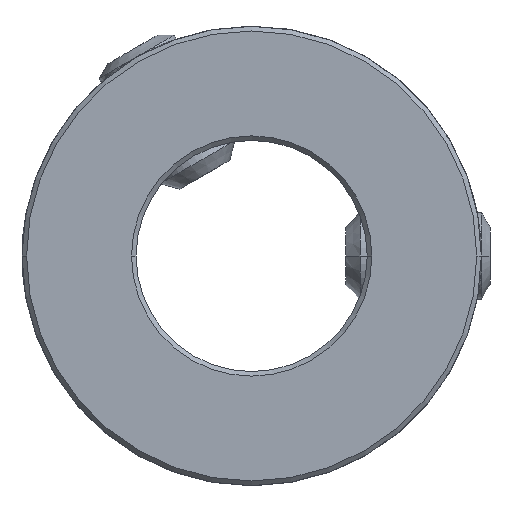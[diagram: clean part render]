
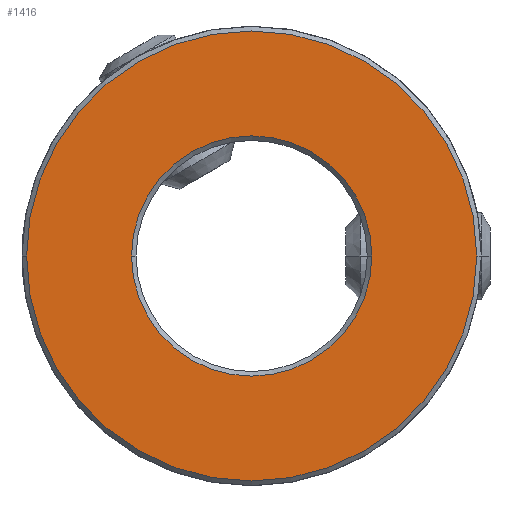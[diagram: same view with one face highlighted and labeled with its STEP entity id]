
A CAD part, front view. The second image highlights one B-rep face of the part: STEP entity #1416.
In plain terms, the highlighted planar face has unit normal (0, -1, 0).
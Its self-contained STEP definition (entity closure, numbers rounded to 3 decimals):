
#2=CARTESIAN_POINT('',(0.,-15.,0.));
#3=DIRECTION('',(0.,-1.,0.));
#4=DIRECTION('',(1.,0.,0.));
#5=AXIS2_PLACEMENT_3D('',#2,#3,#4);
#7=CARTESIAN_POINT('',(0.,-15.,
0.));
#8=DIRECTION('',(0.,-1.,0.));
#9=DIRECTION('',(-1.,0.,0.));
#10=AXIS2_PLACEMENT_3D('',#7,#8,#9);
#12=CARTESIAN_POINT('',(0.,-15.,0.));
#13=DIRECTION('',(0.,1.,0.));
#14=DIRECTION('',(1.,0.,0.));
#15=AXIS2_PLACEMENT_3D('',#12,#13,#14);
#17=CARTESIAN_POINT('',(0.,-15.,
0.));
#18=DIRECTION('',(0.,1.,0.));
#19=DIRECTION('',(-1.,0.,0.));
#20=AXIS2_PLACEMENT_3D('',#17,#18,#19);
#1284=CARTESIAN_POINT('',(8.32,-15.,0.));
#1285=CARTESIAN_POINT('',(-8.32,-15.,0.));
#1286=VERTEX_POINT('',#1284);
#1287=VERTEX_POINT('',#1285);
#1300=CARTESIAN_POINT('',(15.58,-15.,0.));
#1301=CARTESIAN_POINT('',(-15.58,-15.,0.));
#1302=VERTEX_POINT('',#1300);
#1303=VERTEX_POINT('',#1301);
#1399=CARTESIAN_POINT('',(0.,-15.,0.));
#1400=DIRECTION('',(0.,1.,0.));
#1401=DIRECTION('',(1.,0.,0.));
#1402=AXIS2_PLACEMENT_3D('',#1399,#1400,#1401);
#1403=PLANE('',#1402);
#1405=ORIENTED_EDGE('',*,*,#1404,.F.);
#1407=ORIENTED_EDGE('',*,*,#1406,.F.);
#1408=EDGE_LOOP('',(#1405,#1407));
#1409=FACE_OUTER_BOUND('',#1408,.F.);
#1411=ORIENTED_EDGE('',*,*,#1410,.F.);
#1413=ORIENTED_EDGE('',*,*,#1412,.F.);
#1414=EDGE_LOOP('',(#1411,#1413));
#1415=FACE_BOUND('',#1414,.F.);
#1416=ADVANCED_FACE('',(#1409,#1415),#1403,.F.);
#6=CIRCLE('',#5,15.58);
#11=CIRCLE('',#10,15.58);
#16=CIRCLE('',#15,8.32);
#21=CIRCLE('',#20,8.32);
#1404=EDGE_CURVE('',#1302,#1303,#6,.T.);
#1406=EDGE_CURVE('',#1303,#1302,#11,.T.);
#1410=EDGE_CURVE('',#1286,#1287,#16,.T.);
#1412=EDGE_CURVE('',#1287,#1286,#21,.T.);
